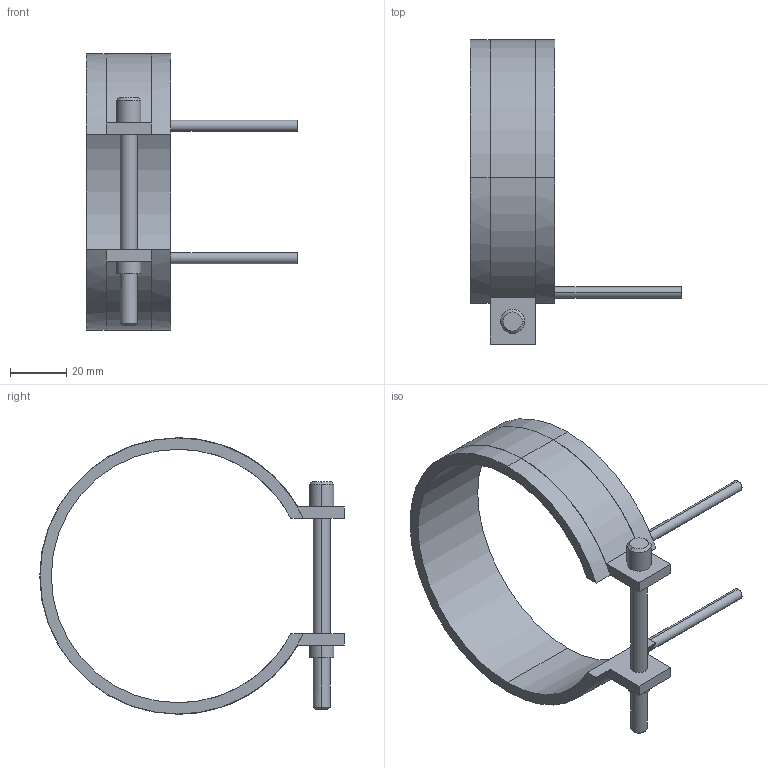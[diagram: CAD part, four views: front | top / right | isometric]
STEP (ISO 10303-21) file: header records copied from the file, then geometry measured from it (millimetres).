
FILE_DESCRIPTION(('CATIA V5 STEP Exchange'),'2;1');
FILE_NAME('C:\Users\Utente\Desktop\IO LAVORO\3D X SITO CF\X SITO\PLASTICA\RF2\14090030.stp','2021-04-06T16:12:22+00:00',('none'),('none'),'CATIA Version 5 Release 20 GA (IN-10)','CATIA V5 STEP AP203','none');
FILE_SCHEMA(('CONFIG_CONTROL_DESIGN'));
Length unit declared in the file: millimetre
Products named in the file (1): 14090030
Bounding box: 75 x 108.1 x 98.2 mm (x, y, z)
Volume: 36314.8 mm3; surface area: 21279 mm2
Topology: 1 solids, 1 shells, 45 faces, 116 edges, 76 vertices
Faces by surface type: cylinder 24, plane 17, cone 4
Entity records: 1412 total; most frequent: CARTESIAN_POINT 288, ORIENTED_EDGE 232, DIRECTION 195, EDGE_CURVE 116, AXIS2_PLACEMENT_3D 103, VERTEX_POINT 76, CIRCLE 61, VECTOR 52
